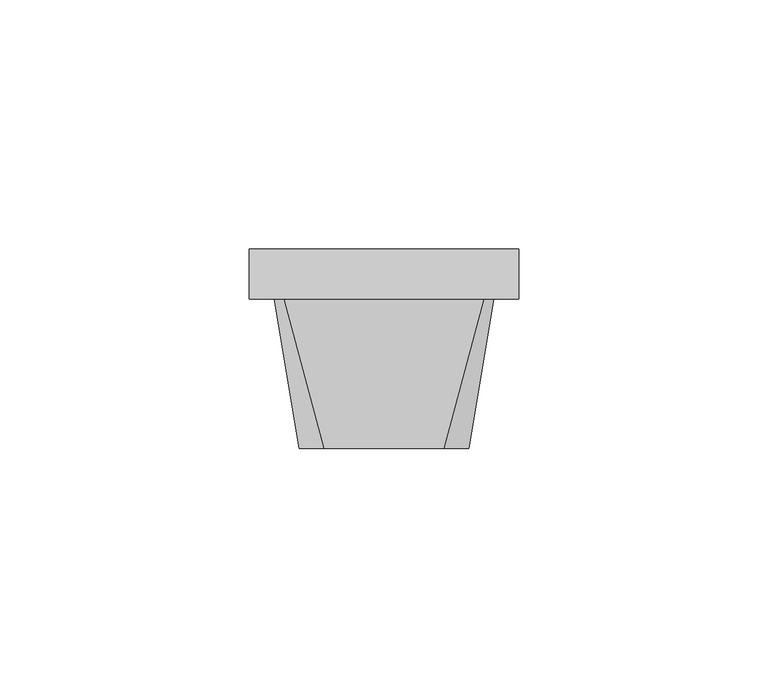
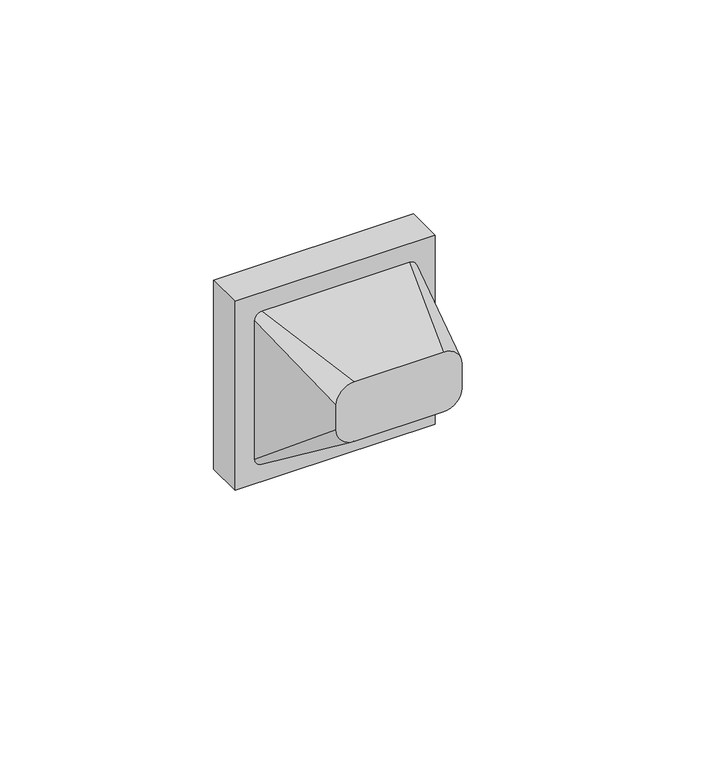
"""IFC4 building model written with IfcOpenShell, lengths in millimetres: proxy geometry, IEK_Brite_Механизм розетки 230В : USB A+C_РЮ11-1-БрА."""

from ifc_helpers import new_model, si_unit, frame, origin, place, context, project, spatial, polyline, circle_curve, outline, extrude, source, transform, mapped, element, save
from ifc_brep_helpers import plane_surface, revolved_surface, spline_surface, advanced_brep


def electrical_fixtures_e14fb297(model_context):
    return source(origin(), model_context, "Body", "SolidModel", [
        extrude(outline(polyline([(8.2114458, 8.332744), (15.2772832, 8.332744), (15.2772832, 1.9), (8.2114458, 1.9), (8.2114458, 8.332744)])), frame((0.0, 0.0, -0.4946588), z_axis=(0.0, 0.0, 1.0), x_axis=(1.0, 0.0, 0.0)), (0.0, 0.0, 1.0), 0.9893176),
        advanced_brep(
        [(-27.0, 10.0, 27.0), (27.0, 10.0, 27.0), (27.0, 10.0, -27.0), (-27.0, 10.0, -27.0), (-18.7443645, 10.0, 2.8384323), (-18.7443645, 10.0, -3.1615677), (-4.7443645, 10.0, -3.1615677), (-4.7443645, 10.0, 2.8384323), (15.2648222, 10.0, -1.5), (15.2648222, 10.0, 1.5), (8.2239068, 10.0, 1.5), (8.2239068, 10.0, -1.5), (-27.0, 0.0, 27.0), (-27.0, 0.0, -27.0), (27.0, 0.0, -27.0), (27.0, 0.0, 27.0), (-18.7443645, 1.865818, 2.8384323), (-4.7443645, 1.865818, 2.8384323), (-4.7443645, 1.865818, -3.1615677), (-18.7443645, 1.865818, -3.1615677), (15.2648222, 1.865818, 1.5), (15.2648222, 1.865818, -1.5), (8.2239068, 1.865818, -1.5), (8.2239068, 1.865818, 1.5)],
        [
            (0, 1),
            (1, 2),
            (2, 3),
            (3, 0),
            (4, 5),
            (5, 6),
            (6, 7),
            (7, 4),
            (8, 9, circle_curve(frame((15.2648222, 10.0, 0.0), z_axis=(0.0, -1.0, 0.0), x_axis=(0.0, 0.0, -1.0)), 1.5)),
            (9, 10),
            (10, 11, circle_curve(frame((8.2239068, 10.0, 0.0), z_axis=(0.0, -1.0, 0.0), x_axis=(0.0, 0.0, -1.0)), 1.5)),
            (11, 8),
            (12, 13),
            (13, 14),
            (14, 15),
            (15, 12),
            (3, 13),
            (12, 0),
            (2, 14),
            (1, 15),
            (16, 17),
            (17, 18),
            (18, 19),
            (19, 16),
            (19, 5),
            (4, 16),
            (18, 6),
            (17, 7),
            (20, 21, circle_curve(frame((15.2648222, 1.865818, 0.0), z_axis=(0.0, 1.0, 0.0), x_axis=(0.0, 0.0, -1.0)), 1.5)),
            (21, 22),
            (22, 23, circle_curve(frame((8.2239068, 1.865818, 0.0), z_axis=(0.0, 1.0, 0.0), x_axis=(0.0, 0.0, -1.0)), 1.5)),
            (23, 20),
            (20, 9),
            (8, 21),
            (11, 22),
            (10, 23),
        ],
        [
            plane_surface(frame((-27.0, 10.0, -27.0), z_axis=(0.0, 1.0, 0.0), x_axis=(0.0, 0.0, 1.0))),
            plane_surface(frame((-27.0, 0.0, -27.0), z_axis=(0.0, -1.0, 0.0), x_axis=(0.0, 0.0, -1.0))),
            plane_surface(frame((-27.0, 0.0, 27.0), z_axis=(-1.0, 0.0, 0.0), x_axis=(0.0, 1.0, 0.0))),
            plane_surface(frame((-27.0, 0.0, -27.0), z_axis=(0.0, 0.0, -1.0), x_axis=(0.0, 1.0, 0.0))),
            plane_surface(frame((27.0, 0.0, -27.0), z_axis=(1.0, 0.0, 0.0), x_axis=(0.0, 1.0, 0.0))),
            plane_surface(frame((27.0, 0.0, 27.0), z_axis=(0.0, 0.0, 1.0), x_axis=(0.0, 1.0, 0.0))),
            plane_surface(frame((2.0961488, 1.865818, 2.8384323), z_axis=(0.0, 1.0, 0.0), x_axis=(-1.0, 0.0, 0.0))),
            plane_surface(frame((-18.7443645, 10.0, -3.1615677), z_axis=(1.0, 0.0, 0.0), x_axis=(0.0, -1.0, 0.0))),
            plane_surface(frame((-4.7443645, 10.0, -3.1615677), z_axis=(0.0, 0.0, 1.0), x_axis=(0.0, -1.0, 0.0))),
            plane_surface(frame((-4.7443645, 10.0, 2.8384323), z_axis=(-1.0, 0.0, 0.0), x_axis=(0.0, -1.0, 0.0))),
            plane_surface(frame((-18.7443645, 10.0, 2.8384323), z_axis=(0.0, 0.0, -1.0), x_axis=(0.0, -1.0, 0.0))),
            plane_surface(frame((15.2648222, 1.865818, -1.5), z_axis=(0.0, 1.0, 0.0), x_axis=(1.0, 0.0, 0.0))),
            revolved_surface(polyline([(15.2648222, 10.0, -1.5), (15.2648222, 1.865818, -1.5)]), (15.2648222, 1.865818, 0.0), (0.0, 1.0, 0.0)),
            plane_surface(frame((15.2648222, 10.0, -1.5), z_axis=(0.0, 0.0, 1.0), x_axis=(0.0, -1.0, 0.0))),
            revolved_surface(polyline([(8.2239068, 10.0, -1.5), (8.2239068, 1.865818, -1.5)]), (8.2239068, 1.865818, 0.0), (0.0, 1.0, 0.0)),
            plane_surface(frame((8.2239068, 10.0, 1.5), z_axis=(0.0, 0.0, -1.0), x_axis=(0.0, -1.0, 0.0))),
        ],
        [
            (0, [[1, 2, 3, 4], [5, 6, 7, 8], [9, 10, 11, 12]]),
            (1, [[13, 14, 15, 16]]),
            (2, [[-4, 17, -13, 18]]),
            (3, [[-3, 19, -14, -17]]),
            (4, [[-2, 20, -15, -19]]),
            (5, [[-1, -18, -16, -20]]),
            (6, [[21, 22, 23, 24]]),
            (7, [[-24, 25, -5, 26]]),
            (8, [[-23, 27, -6, -25]]),
            (9, [[-22, 28, -7, -27]]),
            (10, [[-21, -26, -8, -28]]),
            (11, [[29, 30, 31, 32]]),
            (12, [[-29, 33, -9, 34]]),
            (13, [[-30, -34, -12, 35]]),
            (14, [[-31, -35, -11, 36]]),
            (15, [[-32, -36, -10, -33]]),
        ],
    ),
        extrude(outline(polyline([(-16.0629243, 8.332744), (-14.9097787, 8.332744), (-14.9097787, 1.9), (-16.0629243, 1.9), (-16.0629243, 8.332744)])), frame((0.0, 0.0, -0.6072496), z_axis=(0.0, 0.0, 1.0), x_axis=(1.0, 0.0, 0.0)), (0.0, 0.0, 1.0), 0.9632194),
        extrude(outline(polyline([(-13.5348744, 8.332744), (-12.3817288, 8.332744), (-12.3817288, 1.9), (-13.5348744, 1.9), (-13.5348744, 8.332744)])), frame((0.0, 0.0, -0.6072496), z_axis=(0.0, 0.0, 1.0), x_axis=(1.0, 0.0, 0.0)), (0.0, 0.0, 1.0), 0.9632194),
        extrude(outline(polyline([(-11.0629243, 8.332744), (-9.9097787, 8.332744), (-9.9097787, 1.9), (-11.0629243, 1.9), (-11.0629243, 8.332744)])), frame((0.0, 0.0, -0.6072496), z_axis=(0.0, 0.0, 1.0), x_axis=(1.0, 0.0, 0.0)), (0.0, 0.0, 1.0), 0.9632194),
        extrude(outline(polyline([(-8.5348744, 8.332744), (-7.3817288, 8.332744), (-7.3817288, 1.9), (-8.5348744, 1.9), (-8.5348744, 8.332744)])), frame((0.0, 0.0, -0.6072496), z_axis=(0.0, 0.0, 1.0), x_axis=(1.0, 0.0, 0.0)), (0.0, 0.0, 1.0), 0.9632194),
        extrude(outline(polyline([(-6.205143, 1.865818), (-17.5539374, 1.865818), (-17.5539374, 8.6493558), (-6.205143, 8.6493558), (-6.205143, 1.865818)])), frame((0.0, 0.0, -0.9635751), z_axis=(0.0, 0.0, 1.0), x_axis=(1.0, 0.0, 0.0)), (0.0, 0.0, 1.0), 1.1632949),
        advanced_brep(
        [(-12.0, -30.0, 17.0), (-17.0, -30.0, 12.0), (-17.0, -30.0, 5.0), (-12.0, -30.0, 0.0), (12.0, -30.0, 0.0), (17.0, -30.0, 5.0), (17.0, -30.0, 12.0), (12.0, -30.0, 17.0), (-20.0, 0.0, 22.0), (20.0, 0.0, 22.0), (22.0, 0.0, 20.0), (22.0, 0.0, -20.0), (20.0, 0.0, -22.0), (-20.0, 0.0, -22.0), (-22.0, 0.0, -20.0), (-22.0, 0.0, 20.0), (-11.8753617, 0.0, 0.0), (-6.3904783, 0.0, 0.0), (-3.0105286, 0.0, 0.0), (3.0105286, 0.0, 0.0), (6.3904783, 0.0, 0.0), (11.8753617, 0.0, 0.0), (-1.7917908, 0.0, 19.3280847), (-1.7917908, 0.0, 16.8280847), (0.0, 0.0, 16.8280847), (1.7917908, 0.0, 16.8280847), (1.7917908, 0.0, 19.3280847), (0.0, 0.0, 19.3280847), (-1.7917908, 0.0, -19.3280847), (0.0, 0.0, -19.3280847), (1.7917908, 0.0, -19.3280847), (1.7917908, 0.0, -16.8280847), (0.0, 0.0, -16.8280847), (-1.7917908, 0.0, -16.8280847), (0.0, -3.6435209, -19.3280847), (-1.7917908, -3.6435209, -19.3280847), (-1.7917908, -7.0526118, -16.8280847), (0.0, -7.0526118, -16.8280847), (1.7917908, -7.0526118, -16.8280847), (1.7917908, -3.6435209, -19.3280847), (-11.8753617, -13.4962918, 0.0), (-6.3904783, -13.4962918, 0.0), (-3.0105286, -13.4962918, 0.0), (3.0105286, -13.4962918, 0.0), (6.3904783, -13.4962918, 0.0), (11.8753617, -13.4962918, 0.0), (-1.7917908, -13.4962918, 19.3280847), (0.0, -13.4962918, 19.3280847), (1.7917908, -13.4962918, 19.3280847), (1.7917908, -13.4962918, 16.8280847), (0.0, -13.4962918, 16.8280847), (-1.7917908, -13.4962918, 16.8280847)],
        [
            (0, 1, circle_curve(frame((-12.0, -30.0, 12.0), z_axis=(0.0, -1.0, 0.0), x_axis=(1.0, 0.0, 0.0)), 5.0)),
            (1, 2),
            (2, 3, circle_curve(frame((-12.0, -30.0, 5.0), z_axis=(0.0, -1.0, 0.0), x_axis=(1.0, 0.0, 0.0)), 5.0)),
            (3, 4),
            (4, 5, circle_curve(frame((12.0, -30.0, 5.0), z_axis=(0.0, -1.0, 0.0), x_axis=(1.0, 0.0, 0.0)), 5.0)),
            (5, 6),
            (6, 7, circle_curve(frame((12.0, -30.0, 12.0), z_axis=(0.0, -1.0, 0.0), x_axis=(1.0, 0.0, 0.0)), 5.0)),
            (7, 0),
            (8, 9),
            (9, 10, circle_curve(frame((20.0, 0.0, 20.0), z_axis=(0.0, 1.0, 0.0), x_axis=(1.0, 0.0, 0.0)), 2.0)),
            (10, 11),
            (11, 12, circle_curve(frame((20.0, 0.0, -20.0), z_axis=(0.0, 1.0, 0.0), x_axis=(1.0, 0.0, 0.0)), 2.0)),
            (12, 13),
            (13, 14, circle_curve(frame((-20.0, 0.0, -20.0), z_axis=(0.0, 1.0, 0.0), x_axis=(1.0, 0.0, 0.0)), 2.0)),
            (14, 15),
            (15, 8, circle_curve(frame((-20.0, 0.0, 20.0), z_axis=(0.0, 1.0, 0.0), x_axis=(1.0, 0.0, 0.0)), 2.0)),
            (16, 17, circle_curve(frame((-9.13292, 0.0, 0.0), z_axis=(0.0, -1.0, 0.0), x_axis=(1.0, 0.0, 0.0)), 2.7424417)),
            (17, 16, circle_curve(frame((-9.13292, 0.0, 0.0), z_axis=(0.0, -1.0, 0.0), x_axis=(1.0, 0.0, 0.0)), 2.7424417)),
            (18, 19, circle_curve(frame((0.0, 0.0, 0.0), z_axis=(0.0, -1.0, 0.0), x_axis=(1.0, 0.0, 0.0)), 3.0105286)),
            (19, 18, circle_curve(frame((0.0, 0.0, 0.0), z_axis=(0.0, -1.0, 0.0), x_axis=(1.0, 0.0, 0.0)), 3.0105286)),
            (20, 21, circle_curve(frame((9.13292, 0.0, 0.0), z_axis=(0.0, -1.0, 0.0), x_axis=(1.0, 0.0, 0.0)), 2.7424417)),
            (21, 20, circle_curve(frame((9.13292, 0.0, 0.0), z_axis=(0.0, -1.0, 0.0), x_axis=(1.0, 0.0, 0.0)), 2.7424417)),
            (22, 23),
            (23, 24),
            (24, 25),
            (25, 26),
            (26, 27),
            (27, 22),
            (28, 29),
            (29, 30),
            (30, 31),
            (31, 32),
            (32, 33),
            (33, 28),
            (7, 9),
            (8, 0),
            (6, 10),
            (5, 11),
            (4, 12),
            (3, 13),
            (34, 35),
            (35, 36),
            (36, 37),
            (37, 38),
            (38, 39),
            (39, 34),
            (2, 14),
            (1, 15),
            (40, 41, circle_curve(frame((-9.13292, -13.4962918, 0.0), z_axis=(0.0, 1.0, 0.0), x_axis=(1.0, 0.0, 0.0)), 2.7424417)),
            (41, 40, circle_curve(frame((-9.13292, -13.4962918, 0.0), z_axis=(0.0, 1.0, 0.0), x_axis=(1.0, 0.0, 0.0)), 2.7424417)),
            (42, 43, circle_curve(frame((0.0, -13.4962918, 0.0), z_axis=(0.0, 1.0, 0.0), x_axis=(1.0, 0.0, 0.0)), 3.0105286)),
            (43, 42, circle_curve(frame((0.0, -13.4962918, 0.0), z_axis=(0.0, 1.0, 0.0), x_axis=(1.0, 0.0, 0.0)), 3.0105286)),
            (44, 45, circle_curve(frame((9.13292, -13.4962918, 0.0), z_axis=(0.0, 1.0, 0.0), x_axis=(1.0, 0.0, 0.0)), 2.7424417)),
            (45, 44, circle_curve(frame((9.13292, -13.4962918, 0.0), z_axis=(0.0, 1.0, 0.0), x_axis=(1.0, 0.0, 0.0)), 2.7424417)),
            (46, 47),
            (47, 48),
            (48, 49),
            (49, 50),
            (50, 51),
            (51, 46),
            (41, 17),
            (16, 40),
            (43, 19),
            (18, 42),
            (45, 21),
            (20, 44),
            (51, 23),
            (22, 46),
            (50, 24),
            (49, 25),
            (48, 26),
            (47, 27),
            (28, 35),
            (34, 29),
            (39, 30),
            (38, 31),
            (37, 32),
            (36, 33),
        ],
        [
            plane_surface(frame((0.0, -30.0, 8.5), z_axis=(0.0, -1.0, 0.0), x_axis=(-1.0, 0.0, 0.0))),
            plane_surface(frame((0.0, 0.0, 0.0), z_axis=(0.0, 1.0, 0.0), x_axis=(-1.0, 0.0, 0.0))),
            plane_surface(frame((0.0, 0.0, 22.0), z_axis=(0.0, -0.16439898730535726, 0.9863939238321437), x_axis=(-1.0, 0.0, 0.0))),
            spline_surface(2, 1, [[(22.0, 0.0, 20.0), (17.0, -30.0, 12.0)], [(22.0, 0.0, 22.0), (17.0, -30.0, 17.0)], [(20.0, 0.0, 22.0), (12.0, -30.0, 17.0)]], [3, 3], [2, 2], [0.0, 1.0], [0.0, 1.0], weights=[[1.0, 1.0], [0.7071067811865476, 0.7071067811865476], [1.0, 1.0]]),
            plane_surface(frame((22.0, 0.0, 0.0), z_axis=(0.9863939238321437, -0.1643989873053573, 0.0), x_axis=(0.0, 0.0, 1.0))),
            spline_surface(2, 1, [[(20.0, 0.0, -22.0), (12.0, -30.0, 0.0)], [(22.0, 0.0, -22.0), (17.0, -30.0, 0.0)], [(22.0, 0.0, -20.0), (17.0, -30.0, 5.0)]], [3, 3], [2, 2], [0.0, 1.0], [0.0, 1.0], weights=[[1.0, 1.0], [0.7071067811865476, 0.7071067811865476], [1.0, 1.0]]),
            plane_surface(frame((0.0, 0.0, -22.0), z_axis=(0.0, -0.591363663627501, -0.8064049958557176), x_axis=(1.0, 0.0, 0.0))),
            spline_surface(2, 1, [[(-22.0, 0.0, -20.0), (-17.0, -30.0, 5.0)], [(-22.0, 0.0, -22.0), (-17.0, -30.0, 0.0)], [(-20.0, 0.0, -22.0), (-12.0, -30.0, 0.0)]], [3, 3], [2, 2], [0.0, 1.0], [0.0, 1.0], weights=[[1.0, 1.0], [0.7071067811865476, 0.7071067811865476], [1.0, 1.0]]),
            plane_surface(frame((-22.0, 0.0, 0.0), z_axis=(-0.9863939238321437, -0.1643989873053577, 0.0), x_axis=(0.0, 0.0, -1.0))),
            spline_surface(2, 1, [[(-20.0, 0.0, 22.0), (-12.0, -30.0, 17.0)], [(-22.0, 0.0, 22.0), (-17.0, -30.0, 17.0)], [(-22.0, 0.0, 20.0), (-17.0, -30.0, 12.0)]], [3, 3], [2, 2], [0.0, 1.0], [0.0, 1.0], weights=[[1.0, 1.0], [0.7071067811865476, 0.7071067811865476], [1.0, 1.0]]),
            plane_surface(frame((-6.3904783, -13.4962918, 0.0), z_axis=(0.0, 1.0, 0.0), x_axis=(0.0, 0.0, 1.0))),
            revolved_surface(polyline([(-6.3904783, -13.4962918, 0.0), (-6.3904783, 0.0, 0.0)]), (-9.13292, 0.0, 0.0), (0.0, -1.0, 0.0)),
            revolved_surface(polyline([(3.0105286, -13.4962918, 0.0), (3.0105286, 0.0, 0.0)]), (0.0, -2.0, 0.0), (0.0, -1.0, 0.0)),
            revolved_surface(polyline([(11.875361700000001, -13.4962918, 0.0), (11.875361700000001, 0.0, 0.0)]), (9.13292, -2.0, 0.0), (0.0, -1.0, 0.0)),
            plane_surface(frame((-1.7917908, -13.4962918, 19.3280847), z_axis=(1.0, 0.0, 0.0), x_axis=(0.0, 1.0, 0.0))),
            plane_surface(frame((-1.7917908, -13.4962918, 16.8280847), z_axis=(0.0, 0.0, 1.0), x_axis=(0.0, 1.0, 0.0))),
            plane_surface(frame((0.0, -13.4962918, 16.8280847), z_axis=(0.0, 0.0, 1.0), x_axis=(0.0, 1.0, 0.0))),
            plane_surface(frame((1.7917908, -13.4962918, 16.8280847), z_axis=(-1.0, 0.0, 0.0), x_axis=(0.0, 1.0, 0.0))),
            plane_surface(frame((1.7917908, -13.4962918, 19.3280847), z_axis=(0.0, 0.0, -1.0), x_axis=(0.0, 1.0, 0.0))),
            plane_surface(frame((0.0, -13.4962918, 19.3280847), z_axis=(0.0, 0.0, -1.0), x_axis=(0.0, 1.0, 0.0))),
            plane_surface(frame((-1.7917908, -13.4962918, -19.3280847), z_axis=(0.0, 0.0, 1.0), x_axis=(0.0, 1.0, 0.0))),
            plane_surface(frame((0.0, -13.4962918, -19.3280847), z_axis=(0.0, 0.0, 1.0), x_axis=(0.0, 1.0, 0.0))),
            plane_surface(frame((1.7917908, -13.4962918, -19.3280847), z_axis=(-1.0, 0.0, 0.0), x_axis=(0.0, 1.0, 0.0))),
            plane_surface(frame((1.7917908, -13.4962918, -16.8280847), z_axis=(0.0, 0.0, -1.0), x_axis=(0.0, 1.0, 0.0))),
            plane_surface(frame((0.0, -13.4962918, -16.8280847), z_axis=(0.0, 0.0, -1.0), x_axis=(0.0, 1.0, 0.0))),
            plane_surface(frame((-1.7917908, -13.4962918, -16.8280847), z_axis=(1.0, 0.0, 0.0), x_axis=(0.0, 1.0, 0.0))),
        ],
        [
            (0, [[1, 2, 3, 4, 5, 6, 7, 8]]),
            (1, [[9, 10, 11, 12, 13, 14, 15, 16], [17, 18], [19, 20], [21, 22], [23, 24, 25, 26, 27, 28], [29, 30, 31, 32, 33, 34]]),
            (2, [[-8, 35, -9, 36]]),
            (3, [[-7, 37, -10, -35]]),
            (4, [[-6, 38, -11, -37]]),
            (5, [[-5, 39, -12, -38]]),
            (6, [[-4, 40, -13, -39], [41, 42, 43, 44, 45, 46]]),
            (7, [[-3, 47, -14, -40]]),
            (8, [[-2, 48, -15, -47]]),
            (9, [[-1, -36, -16, -48]]),
            (10, [[49, 50]]),
            (10, [[51, 52]]),
            (10, [[53, 54]]),
            (10, [[55, 56, 57, 58, 59, 60]]),
            (11, [[-50, 61, -17, 62]]),
            (11, [[-49, -62, -18, -61]]),
            (12, [[-52, 63, -19, 64]]),
            (12, [[-51, -64, -20, -63]]),
            (13, [[-54, 65, -21, 66]]),
            (13, [[-53, -66, -22, -65]]),
            (14, [[-60, 67, -23, 68]]),
            (15, [[-59, 69, -24, -67]]),
            (16, [[-58, 70, -25, -69]]),
            (17, [[-57, 71, -26, -70]]),
            (18, [[-56, 72, -27, -71]]),
            (19, [[-55, -68, -28, -72]]),
            (20, [[73, -41, 74, -29]]),
            (21, [[-74, -46, 75, -30]]),
            (22, [[-75, -45, 76, -31]]),
            (23, [[-76, -44, 77, -32]]),
            (24, [[-77, -43, 78, -33]]),
            (25, [[-73, -34, -78, -42]]),
        ],
    ),
    ])


if __name__ == "__main__":
    model = new_model("IFC4")
    model_context = context("Model", 3, world=origin())
    ifc_project = project(units=[si_unit("LENGTHUNIT", "METRE", prefix="MILLI")], contexts=[model_context])
    site = spatial("IfcSite", under=ifc_project)
    building = spatial("IfcBuilding", under=site)
    placement = place(None, origin())
    electrical_fixtures_shape = electrical_fixtures_e14fb297(model_context)
    element("IfcBuildingElementProxy", 1, Name="IEK_Brite_Механизм розетки 230В : USB A+C_РЮ11-1-БрА", ObjectType="IEK_Brite_Механизм розетки 230В : USB A+C_РЮ11-1-БрА", at=placement, inside=building, context=model_context, shape_type="MappedRepresentation", body=[
        mapped(electrical_fixtures_shape, transform((0.0, 0.0, 0.0), x_axis=(1.0, 0.0, 0.0), y_axis=(0.0, 1.0, 0.0), z_axis=(0.0, 0.0, 1.0))),
    ])
    save(model, "model.ifc")
